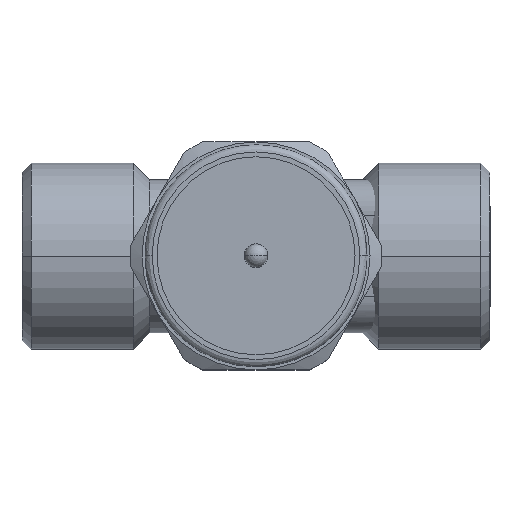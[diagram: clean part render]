
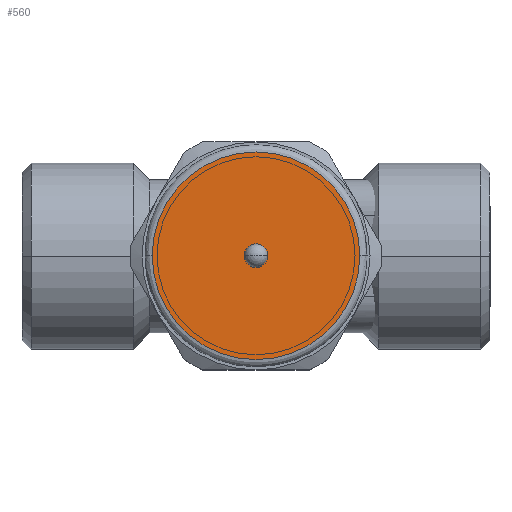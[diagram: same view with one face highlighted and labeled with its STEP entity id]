
A CAD part, top view. The second image highlights one B-rep face of the part: STEP entity #560.
In plain terms, the highlighted planar face has unit normal (0, 0, 1).
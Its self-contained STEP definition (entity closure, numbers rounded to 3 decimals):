
#560=ADVANCED_FACE('',(#2893,#2894),#2892,.T.);
#2892=PLANE('',#5846);
#2893=FACE_OUTER_BOUND('',#5847,.T.);
#2894=FACE_BOUND('',#5848,.T.);
#5843=CARTESIAN_POINT('',(-22.49,-35.957,16.));
#5844=DIRECTION('',(0.,0.,1.));
#5845=DIRECTION('',(1.,0.,0.));
#5846=AXIS2_PLACEMENT_3D('',#5843,#5844,#5845);
#5847=EDGE_LOOP('',(#7450,#7451));
#5848=EDGE_LOOP('',(#7452,#7453));
#7450=ORIENTED_EDGE('',*,*,#8220,.F.);
#7451=ORIENTED_EDGE('',*,*,#8221,.F.);
#7452=ORIENTED_EDGE('',*,*,#8222,.T.);
#7453=ORIENTED_EDGE('',*,*,#8223,.T.);
#8220=EDGE_CURVE('',#11896,#11897,#11898,.T.);
#8221=EDGE_CURVE('',#11897,#11896,#11904,.T.);
#8222=EDGE_CURVE('',#11910,#11911,#11912,.T.);
#8223=EDGE_CURVE('',#11911,#11910,#11918,.T.);
#11896=VERTEX_POINT('',#15295);
#11897=VERTEX_POINT('',#15296);
#11898=CIRCLE('',#15300,17.3);
#11904=CIRCLE('',#15304,17.3);
#11910=VERTEX_POINT('',#15305);
#11911=VERTEX_POINT('',#15306);
#11912=CIRCLE('',#15310,1.1);
#11918=CIRCLE('',#15314,1.1);
#15295=CARTESIAN_POINT('',(17.3,0.,16.));
#15296=CARTESIAN_POINT('',(-17.3,0.,16.));
#15297=CARTESIAN_POINT('',(0.,0.,16.));
#15298=DIRECTION('',(0.,0.,-1.));
#15299=DIRECTION('',(-1.,0.,0.));
#15300=AXIS2_PLACEMENT_3D('',#15297,#15298,#15299);
#15301=CARTESIAN_POINT('',(0.,0.,16.));
#15302=DIRECTION('',(0.,0.,-1.));
#15303=DIRECTION('',(-1.,0.,0.));
#15304=AXIS2_PLACEMENT_3D('',#15301,#15302,#15303);
#15305=CARTESIAN_POINT('',(-1.1,0.,16.));
#15306=CARTESIAN_POINT('',(1.1,0.,16.));
#15307=CARTESIAN_POINT('',(0.,0.,16.));
#15308=DIRECTION('',(0.,0.,-1.));
#15309=DIRECTION('',(-1.,0.,0.));
#15310=AXIS2_PLACEMENT_3D('',#15307,#15308,#15309);
#15311=CARTESIAN_POINT('',(0.,0.,16.));
#15312=DIRECTION('',(0.,0.,-1.));
#15313=DIRECTION('',(-1.,0.,0.));
#15314=AXIS2_PLACEMENT_3D('',#15311,#15312,#15313);
